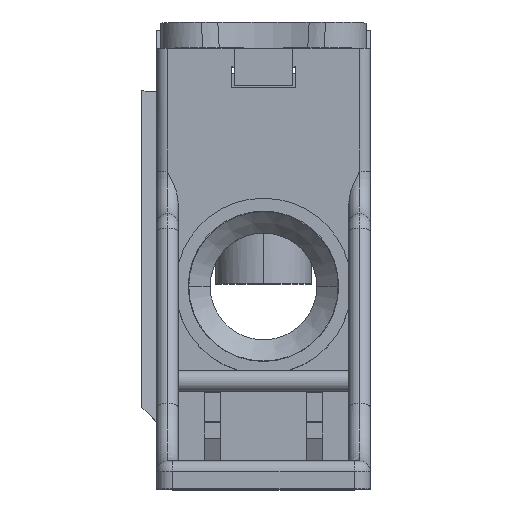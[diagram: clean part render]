
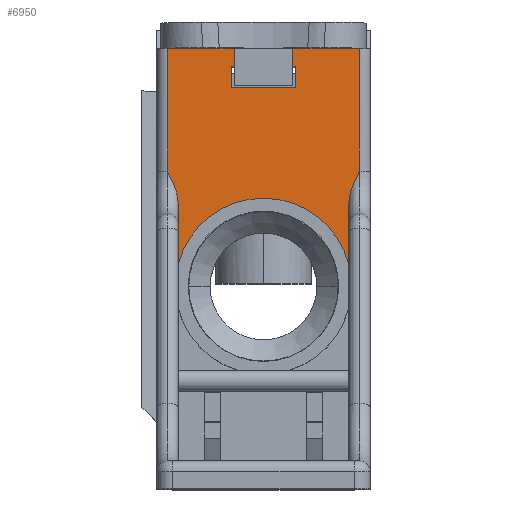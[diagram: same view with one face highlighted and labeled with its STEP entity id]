
A CAD part, top view. The second image highlights one B-rep face of the part: STEP entity #6950.
In plain terms, the highlighted planar face has unit normal (0, 0, 1).
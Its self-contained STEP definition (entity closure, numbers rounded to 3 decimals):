
#88 = EDGE_CURVE ( 'NONE', #3648, #3647, #883, .T. ) ;
#89 = EDGE_CURVE ( 'NONE', #3645, #3646, #886, .T. ) ;
#90 = EDGE_CURVE ( 'NONE', #3646, #3647, #7241, .T. ) ;
#91 = EDGE_CURVE ( 'NONE', #3648, #3649, #7042, .T. ) ;
#92 = EDGE_CURVE ( 'NONE', #3650, #3651, #7243, .T. ) ;
#93 = EDGE_CURVE ( 'NONE', #3651, #3652, #909, .T. ) ;
#94 = EDGE_CURVE ( 'NONE', #3652, #3653, #912, .T. ) ;
#95 = EDGE_CURVE ( 'NONE', #3642, #3653, #915, .T. ) ;
#96 = EDGE_CURVE ( 'NONE', #3654, #3642, #918, .T. ) ;
#97 = EDGE_CURVE ( 'NONE', #3655, #3654, #921, .T. ) ;
#98 = EDGE_CURVE ( 'NONE', #3656, #3655, #924, .T. ) ;
#99 = EDGE_CURVE ( 'NONE', #3643, #3656, #927, .T. ) ;
#100 = EDGE_CURVE ( 'NONE', #3649, #3650, #930, .T. ) ;
#691 = EDGE_CURVE ( 'NONE', #3644, #3641, #1128, .T. ) ;
#743 = VECTOR ( 'NONE', #885, 1000. ) ;
#747 = AXIS2_PLACEMENT_3D ( 'NONE', #896, #897, #898 ) ;
#879 = CARTESIAN_POINT ( 'NONE',  ( -9., 29.8, 14. ) ) ;
#883 = LINE ( 'NONE', #884, #743 ) ;
#884 = CARTESIAN_POINT ( 'NONE',  ( -8., 25.8, 14. ) ) ;
#885 = DIRECTION ( 'NONE',  ( 0., 1., 0. ) ) ;
#886 = LINE ( 'NONE', #887, #9432 ) ;
#887 = CARTESIAN_POINT ( 'NONE',  ( -9., 29.8, 14. ) ) ;
#888 = DIRECTION ( 'NONE',  ( 0., -1., 0. ) ) ;
#889 = CARTESIAN_POINT ( 'NONE',  ( -8.762, 29.325, 14. ) ) ;
#890 = CARTESIAN_POINT ( 'NONE',  ( -8.523, 28.848, 14. ) ) ;
#891 = CARTESIAN_POINT ( 'NONE',  ( -8.239, 28.102, 14. ) ) ;
#892 = CARTESIAN_POINT ( 'NONE',  ( -8.156, 27.847, 14. ) ) ;
#893 = CARTESIAN_POINT ( 'NONE',  ( -8.038, 27.331, 14. ) ) ;
#894 = CARTESIAN_POINT ( 'NONE',  ( -8., 27.069, 14. ) ) ;
#895 = CARTESIAN_POINT ( 'NONE',  ( -8., 26.8, 14. ) ) ;
#896 = CARTESIAN_POINT ( 'NONE',  ( 0., 19., 14. ) ) ;
#897 = DIRECTION ( 'NONE',  ( 0., 0., -1. ) ) ;
#898 = DIRECTION ( 'NONE',  ( 1., 0., 0. ) ) ;
#899 = CARTESIAN_POINT ( 'NONE',  ( 8., 26.8, 14. ) ) ;
#900 = CARTESIAN_POINT ( 'NONE',  ( 8., 27.069, 14. ) ) ;
#901 = CARTESIAN_POINT ( 'NONE',  ( 8.038, 27.331, 14. ) ) ;
#902 = CARTESIAN_POINT ( 'NONE',  ( 8.156, 27.847, 14. ) ) ;
#903 = CARTESIAN_POINT ( 'NONE',  ( 8.239, 28.102, 14. ) ) ;
#904 = CARTESIAN_POINT ( 'NONE',  ( 8.428, 28.6, 14. ) ) ;
#905 = CARTESIAN_POINT ( 'NONE',  ( 8.536, 28.843, 14. ) ) ;
#906 = CARTESIAN_POINT ( 'NONE',  ( 8.762, 29.324, 14. ) ) ;
#907 = CARTESIAN_POINT ( 'NONE',  ( 8.882, 29.563, 14. ) ) ;
#908 = CARTESIAN_POINT ( 'NONE',  ( 9., 29.8, 14. ) ) ;
#909 = LINE ( 'NONE', #910, #9442 ) ;
#910 = CARTESIAN_POINT ( 'NONE',  ( 9., 25.8, 14. ) ) ;
#911 = DIRECTION ( 'NONE',  ( 0., 1., 0. ) ) ;
#912 = LINE ( 'NONE', #913, #9437 ) ;
#913 = CARTESIAN_POINT ( 'NONE',  ( 65.874, 41.3, 14. ) ) ;
#914 = DIRECTION ( 'NONE',  ( -1., 0., 0. ) ) ;
#915 = LINE ( 'NONE', #916, #9484 ) ;
#916 = CARTESIAN_POINT ( 'NONE',  ( 2.75, 41.332, 14. ) ) ;
#917 = DIRECTION ( 'NONE',  ( 0., 1., 0. ) ) ;
#918 = LINE ( 'NONE', #919, #9468 ) ;
#919 = CARTESIAN_POINT ( 'NONE',  ( -3., 39.6, 14. ) ) ;
#920 = DIRECTION ( 'NONE',  ( -1., 0., 0. ) ) ;
#921 = LINE ( 'NONE', #922, #9489 ) ;
#922 = CARTESIAN_POINT ( 'NONE',  ( 3., 39.6, 14. ) ) ;
#923 = DIRECTION ( 'NONE',  ( 0., 1., 0. ) ) ;
#924 = LINE ( 'NONE', #925, #9490 ) ;
#925 = CARTESIAN_POINT ( 'NONE',  ( -3., 37.6, 14. ) ) ;
#926 = DIRECTION ( 'NONE',  ( 1., 0., 0. ) ) ;
#927 = LINE ( 'NONE', #928, #9448 ) ;
#928 = CARTESIAN_POINT ( 'NONE',  ( -3., 39.6, 14. ) ) ;
#929 = DIRECTION ( 'NONE',  ( 0., -1., 0. ) ) ;
#930 = LINE ( 'NONE', #931, #9445 ) ;
#931 = CARTESIAN_POINT ( 'NONE',  ( 8., 25.8, 14. ) ) ;
#932 = DIRECTION ( 'NONE',  ( 0., 1., 0. ) ) ;
#1128 = LINE ( 'NONE', #1129, #9482 ) ;
#1129 = CARTESIAN_POINT ( 'NONE',  ( -2.75, 41.332, 14. ) ) ;
#1130 = DIRECTION ( 'NONE',  ( 0., -1., 0. ) ) ;
#2904 = ORIENTED_EDGE ( 'NONE', *, *, #7307, .F. ) ;
#2905 = ORIENTED_EDGE ( 'NONE', *, *, #7308, .T. ) ;
#2906 = ORIENTED_EDGE ( 'NONE', *, *, #691, .F. ) ;
#2907 = ORIENTED_EDGE ( 'NONE', *, *, #89, .T. ) ;
#3004 = ORIENTED_EDGE ( 'NONE', *, *, #92, .T. ) ;
#3005 = ORIENTED_EDGE ( 'NONE', *, *, #98, .F. ) ;
#3006 = ORIENTED_EDGE ( 'NONE', *, *, #91, .T. ) ;
#3007 = ORIENTED_EDGE ( 'NONE', *, *, #90, .T. ) ;
#3008 = ORIENTED_EDGE ( 'NONE', *, *, #88, .F. ) ;
#3009 = ORIENTED_EDGE ( 'NONE', *, *, #100, .T. ) ;
#3010 = ORIENTED_EDGE ( 'NONE', *, *, #93, .T. ) ;
#3011 = ORIENTED_EDGE ( 'NONE', *, *, #94, .T. ) ;
#3012 = ORIENTED_EDGE ( 'NONE', *, *, #95, .F. ) ;
#3013 = ORIENTED_EDGE ( 'NONE', *, *, #96, .F. ) ;
#3014 = ORIENTED_EDGE ( 'NONE', *, *, #97, .F. ) ;
#3015 = ORIENTED_EDGE ( 'NONE', *, *, #99, .F. ) ;
#3291 = EDGE_LOOP ( 'NONE', ( #2904, #2906, #2905, #2907, #3007, #3008, #3006, #3009, #3004, #3010, #3011, #3012, #3013, #3014, #3005, #3015 ) ) ;
#3641 = VERTEX_POINT ( 'NONE', #7680 ) ;
#3642 = VERTEX_POINT ( 'NONE', #7681 ) ;
#3643 = VERTEX_POINT ( 'NONE', #7682 ) ;
#3644 = VERTEX_POINT ( 'NONE', #7683 ) ;
#3645 = VERTEX_POINT ( 'NONE', #7684 ) ;
#3646 = VERTEX_POINT ( 'NONE', #7685 ) ;
#3647 = VERTEX_POINT ( 'NONE', #7686 ) ;
#3648 = VERTEX_POINT ( 'NONE', #7687 ) ;
#3649 = VERTEX_POINT ( 'NONE', #7688 ) ;
#3650 = VERTEX_POINT ( 'NONE', #7689 ) ;
#3651 = VERTEX_POINT ( 'NONE', #7690 ) ;
#3652 = VERTEX_POINT ( 'NONE', #7691 ) ;
#3653 = VERTEX_POINT ( 'NONE', #7692 ) ;
#3654 = VERTEX_POINT ( 'NONE', #7693 ) ;
#3655 = VERTEX_POINT ( 'NONE', #7694 ) ;
#3656 = VERTEX_POINT ( 'NONE', #7695 ) ;
#4996 = PLANE ( 'NONE',  #5289 ) ;
#4997 = CARTESIAN_POINT ( 'NONE',  ( 65.874, 25.8, 14. ) ) ;
#4998 = DIRECTION ( 'NONE',  ( 0., 0., 1. ) ) ;
#4999 = DIRECTION ( 'NONE',  ( 1., 0., 0. ) ) ;
#5286 = FACE_OUTER_BOUND ( 'NONE', #3291, .T. ) ;
#5289 = AXIS2_PLACEMENT_3D ( 'NONE', #4997, #4998, #4999 ) ;
#5504 = VECTOR ( 'NONE', #5602, 1000. ) ;
#5505 = VECTOR ( 'NONE', #5606, 1000. ) ;
#5600 = LINE ( 'NONE', #5601, #5504 ) ;
#5601 = CARTESIAN_POINT ( 'NONE',  ( -3., 39.6, 14. ) ) ;
#5602 = DIRECTION ( 'NONE',  ( -1., 0., 0. ) ) ;
#5604 = LINE ( 'NONE', #5605, #5505 ) ;
#5605 = CARTESIAN_POINT ( 'NONE',  ( 65.874, 41.3, 14. ) ) ;
#5606 = DIRECTION ( 'NONE',  ( -1., 0., 0. ) ) ;
#6950 = ADVANCED_FACE ( 'NONE', ( #5286 ), #4996, .T. ) ;
#7042 = CIRCLE ( 'NONE', #747, 8.25 ) ;
#7241 = B_SPLINE_CURVE_WITH_KNOTS ( 'NONE', 3,
 ( #879, #889, #890, #891, #892, #893, #894, #895 ),
 .UNSPECIFIED., .F., .F.,
 ( 4, 2, 2, 4 ),
 ( 0., 0.002, 0.002, 0.003 ),
 .UNSPECIFIED. ) ;
#7243 = B_SPLINE_CURVE_WITH_KNOTS ( 'NONE', 3,
 ( #899, #900, #901, #902, #903, #904, #905, #906, #907, #908 ),
 .UNSPECIFIED., .F., .F.,
 ( 4, 2, 2, 2, 4 ),
 ( 0., 0.001, 0.002, 0.002, 0.003 ),
 .UNSPECIFIED. ) ;
#7307 = EDGE_CURVE ( 'NONE', #3641, #3643, #5600, .T. ) ;
#7308 = EDGE_CURVE ( 'NONE', #3644, #3645, #5604, .T. ) ;
#7680 = CARTESIAN_POINT ( 'NONE',  ( -2.75, 39.6, 14. ) ) ;
#7681 = CARTESIAN_POINT ( 'NONE',  ( 2.75, 39.6, 14. ) ) ;
#7682 = CARTESIAN_POINT ( 'NONE',  ( -3., 39.6, 14. ) ) ;
#7683 = CARTESIAN_POINT ( 'NONE',  ( -2.75, 41.3, 14. ) ) ;
#7684 = CARTESIAN_POINT ( 'NONE',  ( -9., 41.3, 14. ) ) ;
#7685 = CARTESIAN_POINT ( 'NONE',  ( -9., 29.8, 14. ) ) ;
#7686 = CARTESIAN_POINT ( 'NONE',  ( -8., 26.8, 14. ) ) ;
#7687 = CARTESIAN_POINT ( 'NONE',  ( -8., 21.016, 14. ) ) ;
#7688 = CARTESIAN_POINT ( 'NONE',  ( 8., 21.016, 14. ) ) ;
#7689 = CARTESIAN_POINT ( 'NONE',  ( 8., 26.8, 14. ) ) ;
#7690 = CARTESIAN_POINT ( 'NONE',  ( 9., 29.8, 14. ) ) ;
#7691 = CARTESIAN_POINT ( 'NONE',  ( 9., 41.3, 14. ) ) ;
#7692 = CARTESIAN_POINT ( 'NONE',  ( 2.75, 41.3, 14. ) ) ;
#7693 = CARTESIAN_POINT ( 'NONE',  ( 3., 39.6, 14. ) ) ;
#7694 = CARTESIAN_POINT ( 'NONE',  ( 3., 37.6, 14. ) ) ;
#7695 = CARTESIAN_POINT ( 'NONE',  ( -3., 37.6, 14. ) ) ;
#9432 = VECTOR ( 'NONE', #888, 1000. ) ;
#9437 = VECTOR ( 'NONE', #914, 1000. ) ;
#9442 = VECTOR ( 'NONE', #911, 1000. ) ;
#9445 = VECTOR ( 'NONE', #932, 1000. ) ;
#9448 = VECTOR ( 'NONE', #929, 1000. ) ;
#9468 = VECTOR ( 'NONE', #920, 1000. ) ;
#9482 = VECTOR ( 'NONE', #1130, 1000. ) ;
#9484 = VECTOR ( 'NONE', #917, 1000. ) ;
#9489 = VECTOR ( 'NONE', #923, 1000. ) ;
#9490 = VECTOR ( 'NONE', #926, 1000. ) ;
